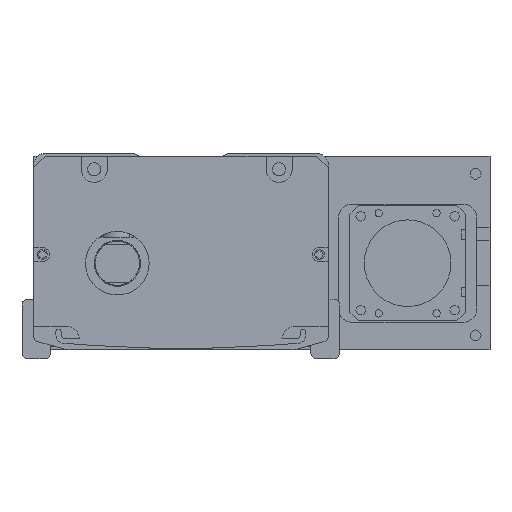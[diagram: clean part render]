
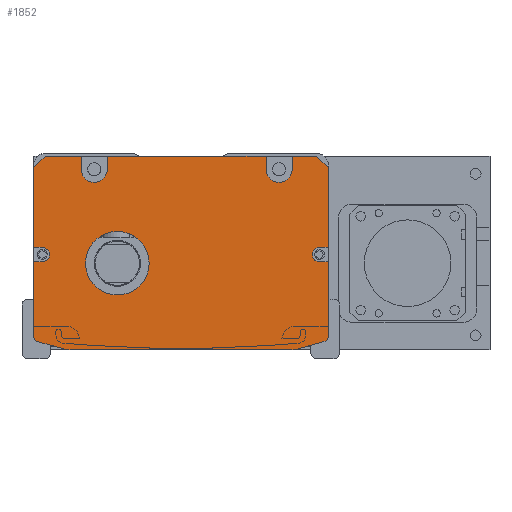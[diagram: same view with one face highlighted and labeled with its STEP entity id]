
A CAD part, front view. The second image highlights one B-rep face of the part: STEP entity #1852.
In plain terms, the highlighted planar face has unit normal (0, -1, 0).
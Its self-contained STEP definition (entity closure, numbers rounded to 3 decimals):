
#1852=ADVANCED_FACE('',(#4440,#4441),#2411,.F.);
#2411=PLANE('',#14145);
#2952=LINE('',#27134,#3751);
#2956=LINE('',#27143,#3755);
#2964=LINE('',#27170,#3763);
#2968=LINE('',#27179,#3767);
#2975=LINE('',#27195,#3774);
#2977=LINE('',#27200,#3776);
#2992=LINE('',#27243,#3791);
#2994=LINE('',#27251,#3793);
#2997=LINE('',#27255,#3796);
#3018=LINE('',#27323,#3817);
#3022=LINE('',#27332,#3821);
#3026=LINE('',#27341,#3825);
#3030=LINE('',#27350,#3829);
#3034=LINE('',#27366,#3833);
#3038=LINE('',#27372,#3837);
#3039=LINE('',#27373,#3838);
#3041=LINE('',#27389,#3840);
#3042=LINE('',#27390,#3841);
#3043=LINE('',#27391,#3842);
#3044=LINE('',#27392,#3843);
#3751=VECTOR('',#16697,1.);
#3755=VECTOR('',#16703,1.);
#3763=VECTOR('',#16725,1.);
#3767=VECTOR('',#16731,1.);
#3774=VECTOR('',#16740,1.);
#3776=VECTOR('',#16744,1.);
#3791=VECTOR('',#16783,1.);
#3793=VECTOR('',#16793,1.);
#3796=VECTOR('',#16798,1.);
#3817=VECTOR('',#16873,1.);
#3821=VECTOR('',#16879,1.);
#3825=VECTOR('',#16885,1.);
#3829=VECTOR('',#16891,1.);
#3833=VECTOR('',#16909,1.);
#3837=VECTOR('',#16913,1.);
#3838=VECTOR('',#16914,1.);
#3840=VECTOR('',#16938,1.);
#3841=VECTOR('',#16939,1.);
#3842=VECTOR('',#16940,1.);
#3843=VECTOR('',#16941,1.);
#4440=FACE_BOUND('',#5358,.T.);
#4441=FACE_BOUND('',#5359,.T.);
#5358=EDGE_LOOP('',(#7865,#7866,#7867,#7868,#7869,#7870,#7871,#7872,#7873,
#7874,#7875,#7876,#7877,#7878,#7879,#7880,#7881,#7882,#7883,#7884,#7885,
#7886,#7887,#7888,#7889,#7890,#7891,#7892));
#5359=EDGE_LOOP('',(#7893));
#7865=ORIENTED_EDGE('',*,*,#11922,.T.);
#7866=ORIENTED_EDGE('',*,*,#11799,.T.);
#7867=ORIENTED_EDGE('',*,*,#11909,.T.);
#7868=ORIENTED_EDGE('',*,*,#11826,.F.);
#7869=ORIENTED_EDGE('',*,*,#11863,.T.);
#7870=ORIENTED_EDGE('',*,*,#11828,.F.);
#7871=ORIENTED_EDGE('',*,*,#11914,.T.);
#7872=ORIENTED_EDGE('',*,*,#11815,.F.);
#7873=ORIENTED_EDGE('',*,*,#11860,.T.);
#7874=ORIENTED_EDGE('',*,*,#11819,.F.);
#7875=ORIENTED_EDGE('',*,*,#11913,.T.);
#7876=ORIENTED_EDGE('',*,*,#11803,.T.);
#7877=ORIENTED_EDGE('',*,*,#11923,.T.);
#7878=ORIENTED_EDGE('',*,*,#11893,.T.);
#7879=ORIENTED_EDGE('',*,*,#11921,.T.);
#7880=ORIENTED_EDGE('',*,*,#11889,.T.);
#7881=ORIENTED_EDGE('',*,*,#11924,.T.);
#7882=ORIENTED_EDGE('',*,*,#11846,.T.);
#7883=ORIENTED_EDGE('',*,*,#11849,.T.);
#7884=ORIENTED_EDGE('',*,*,#11852,.T.);
#7885=ORIENTED_EDGE('',*,*,#11853,.T.);
#7886=ORIENTED_EDGE('',*,*,#11809,.T.);
#7887=ORIENTED_EDGE('',*,*,#11856,.T.);
#7888=ORIENTED_EDGE('',*,*,#11811,.T.);
#7889=ORIENTED_EDGE('',*,*,#11925,.T.);
#7890=ORIENTED_EDGE('',*,*,#11901,.T.);
#7891=ORIENTED_EDGE('',*,*,#11920,.T.);
#7892=ORIENTED_EDGE('',*,*,#11897,.T.);
#7893=ORIENTED_EDGE('',*,*,#11865,.T.);
#10235=VERTEX_POINT('',#27135);
#10236=VERTEX_POINT('',#27136);
#10239=VERTEX_POINT('',#27144);
#10240=VERTEX_POINT('',#27145);
#10245=VERTEX_POINT('',#27156);
#10246=VERTEX_POINT('',#27158);
#10247=VERTEX_POINT('',#27162);
#10248=VERTEX_POINT('',#27163);
#10251=VERTEX_POINT('',#27171);
#10252=VERTEX_POINT('',#27172);
#10255=VERTEX_POINT('',#27180);
#10256=VERTEX_POINT('',#27181);
#10260=VERTEX_POINT('',#27190);
#10262=VERTEX_POINT('',#27194);
#10263=VERTEX_POINT('',#27198);
#10265=VERTEX_POINT('',#27201);
#10275=VERTEX_POINT('',#27231);
#10278=VERTEX_POINT('',#27236);
#10280=VERTEX_POINT('',#27242);
#10282=VERTEX_POINT('',#27248);
#10285=VERTEX_POINT('',#27274);
#10301=VERTEX_POINT('',#27321);
#10303=VERTEX_POINT('',#27324);
#10306=VERTEX_POINT('',#27331);
#10307=VERTEX_POINT('',#27333);
#10309=VERTEX_POINT('',#27339);
#10311=VERTEX_POINT('',#27342);
#10314=VERTEX_POINT('',#27349);
#10315=VERTEX_POINT('',#27351);
#11799=EDGE_CURVE('',#10235,#10236,#2952,.T.);
#11803=EDGE_CURVE('',#10239,#10240,#2956,.T.);
#11809=EDGE_CURVE('',#10246,#10245,#12996,.T.);
#11811=EDGE_CURVE('',#10247,#10248,#12997,.T.);
#11815=EDGE_CURVE('',#10251,#10252,#2964,.T.);
#11819=EDGE_CURVE('',#10255,#10256,#2968,.T.);
#11826=EDGE_CURVE('',#10262,#10260,#2975,.T.);
#11828=EDGE_CURVE('',#10263,#10265,#2977,.T.);
#11846=EDGE_CURVE('',#10275,#10278,#13004,.T.);
#11849=EDGE_CURVE('',#10278,#10280,#2992,.T.);
#11852=EDGE_CURVE('',#10280,#10282,#13006,.T.);
#11853=EDGE_CURVE('',#10282,#10246,#2994,.T.);
#11856=EDGE_CURVE('',#10245,#10247,#2997,.T.);
#11860=EDGE_CURVE('',#10251,#10256,#13009,.T.);
#11863=EDGE_CURVE('',#10262,#10265,#13012,.T.);
#11865=EDGE_CURVE('',#10285,#10285,#13013,.T.);
#11889=EDGE_CURVE('',#10303,#10301,#3018,.T.);
#11893=EDGE_CURVE('',#10307,#10306,#3022,.T.);
#11897=EDGE_CURVE('',#10311,#10309,#3026,.T.);
#11901=EDGE_CURVE('',#10315,#10314,#3030,.T.);
#11909=EDGE_CURVE('',#10236,#10260,#3034,.T.);
#11913=EDGE_CURVE('',#10255,#10239,#3038,.T.);
#11914=EDGE_CURVE('',#10263,#10252,#3039,.T.);
#11920=EDGE_CURVE('',#10314,#10311,#13027,.T.);
#11921=EDGE_CURVE('',#10306,#10303,#13028,.T.);
#11922=EDGE_CURVE('',#10309,#10235,#3041,.T.);
#11923=EDGE_CURVE('',#10240,#10307,#3042,.T.);
#11924=EDGE_CURVE('',#10301,#10275,#3043,.T.);
#11925=EDGE_CURVE('',#10248,#10315,#3044,.T.);
#12996=CIRCLE('',#14072,10.);
#12997=CIRCLE('',#14074,2.);
#13004=CIRCLE('',#14090,2.);
#13006=CIRCLE('',#14094,10.);
#13009=CIRCLE('',#14102,4.5);
#13012=CIRCLE('',#14107,4.5);
#13013=CIRCLE('',#14110,11.);
#13027=CIRCLE('',#14141,2.5);
#13028=CIRCLE('',#14143,2.5);
#14072=AXIS2_PLACEMENT_3D('',#27157,#16712,#16713);
#14074=AXIS2_PLACEMENT_3D('',#27161,#16717,#16718);
#14090=AXIS2_PLACEMENT_3D('',#27237,#16777,#16778);
#14094=AXIS2_PLACEMENT_3D('',#27249,#16789,#16790);
#14102=AXIS2_PLACEMENT_3D('',#27263,#16810,#16811);
#14107=AXIS2_PLACEMENT_3D('',#27269,#16820,#16821);
#14110=AXIS2_PLACEMENT_3D('',#27273,#16827,#16828);
#14141=AXIS2_PLACEMENT_3D('',#27385,#16930,#16931);
#14143=AXIS2_PLACEMENT_3D('',#27387,#16934,#16935);
#14145=AXIS2_PLACEMENT_3D('',#27393,#16942,#16943);
#16697=DIRECTION('',(-0.707,0.,0.707));
#16703=DIRECTION('',(-0.707,0.,-0.707));
#16712=DIRECTION('',(0.,-1.,0.));
#16713=DIRECTION('',(0.,0.,-1.));
#16717=DIRECTION('',(0.,-1.,0.));
#16718=DIRECTION('',(0.,0.,-1.));
#16725=DIRECTION('',(0.,0.,1.));
#16731=DIRECTION('',(0.,0.,-1.));
#16740=DIRECTION('',(0.,0.,1.));
#16744=DIRECTION('',(0.,0.,-1.));
#16777=DIRECTION('',(0.,-1.,0.));
#16778=DIRECTION('',(0.,0.,1.));
#16783=DIRECTION('',(0.963,0.,-0.269));
#16789=DIRECTION('',(0.,-1.,0.));
#16790=DIRECTION('',(0.,0.,1.));
#16793=DIRECTION('',(1.,0.,0.));
#16798=DIRECTION('',(0.963,0.,0.269));
#16810=DIRECTION('',(0.,1.,0.));
#16811=DIRECTION('',(0.,0.,1.));
#16820=DIRECTION('',(0.,1.,0.));
#16821=DIRECTION('',(0.,0.,1.));
#16827=DIRECTION('',(0.,1.,0.));
#16828=DIRECTION('',(0.,0.,1.));
#16873=DIRECTION('',(-1.,0.,0.));
#16879=DIRECTION('',(1.,0.,0.));
#16885=DIRECTION('',(1.,0.,0.));
#16891=DIRECTION('',(-1.,0.,0.));
#16909=DIRECTION('',(-1.,0.,0.));
#16913=DIRECTION('',(-1.,0.,0.));
#16914=DIRECTION('',(-1.,0.,0.));
#16930=DIRECTION('',(0.,1.,0.));
#16931=DIRECTION('',(0.,0.,1.));
#16934=DIRECTION('',(0.,1.,0.));
#16935=DIRECTION('',(0.,0.,1.));
#16938=DIRECTION('',(0.,0.,1.));
#16939=DIRECTION('',(0.,0.,-1.));
#16940=DIRECTION('',(0.,0.,-1.));
#16941=DIRECTION('',(0.,0.,1.));
#16942=DIRECTION('',(0.,1.,0.));
#16943=DIRECTION('',(-1.,0.,0.));
#27134=CARTESIAN_POINT('',(43.808,-667.5,-1.));
#27135=CARTESIAN_POINT('',(47.808,-667.5,-5.));
#27136=CARTESIAN_POINT('',(43.808,-667.5,-1.));
#27143=CARTESIAN_POINT('',(-54.192,-667.5,-5.));
#27144=CARTESIAN_POINT('',(-50.192,-667.5,-1.));
#27145=CARTESIAN_POINT('',(-54.192,-667.5,-5.));
#27156=CARTESIAN_POINT('',(37.424,-667.5,-67.631));
#27157=CARTESIAN_POINT('',(34.733,-667.5,-58.));
#27158=CARTESIAN_POINT('',(34.733,-667.5,-68.));
#27161=CARTESIAN_POINT('',(45.808,-667.5,-63.212));
#27162=CARTESIAN_POINT('',(46.346,-667.5,-65.138));
#27163=CARTESIAN_POINT('',(47.808,-667.5,-63.212));
#27170=CARTESIAN_POINT('',(-28.692,-667.5,-3.5));
#27171=CARTESIAN_POINT('',(-28.692,-667.5,-5.5));
#27172=CARTESIAN_POINT('',(-28.692,-667.5,-1.));
#27179=CARTESIAN_POINT('',(-37.692,-667.5,-1.));
#27180=CARTESIAN_POINT('',(-37.692,-667.5,-1.));
#27181=CARTESIAN_POINT('',(-37.692,-667.5,-5.5));
#27190=CARTESIAN_POINT('',(35.308,-667.5,-1.));
#27194=CARTESIAN_POINT('',(35.308,-667.5,-5.5));
#27195=CARTESIAN_POINT('',(35.308,-667.5,-1.));
#27198=CARTESIAN_POINT('',(26.308,-667.5,-1.));
#27200=CARTESIAN_POINT('',(26.308,-667.5,-1.));
#27201=CARTESIAN_POINT('',(26.308,-667.5,-5.5));
#27231=CARTESIAN_POINT('',(-54.192,-667.5,-63.212));
#27236=CARTESIAN_POINT('',(-52.731,-667.5,-65.138));
#27237=CARTESIAN_POINT('',(-52.192,-667.5,-63.212));
#27242=CARTESIAN_POINT('',(-43.809,-667.5,-67.631));
#27243=CARTESIAN_POINT('',(-55.807,-667.5,-64.279));
#27248=CARTESIAN_POINT('',(-41.118,-667.5,-68.));
#27249=CARTESIAN_POINT('',(-41.118,-667.5,-58.));
#27251=CARTESIAN_POINT('',(-54.692,-667.5,-68.));
#27255=CARTESIAN_POINT('',(49.422,-667.5,-64.279));
#27263=CARTESIAN_POINT('',(-33.192,-667.5,-5.5));
#27269=CARTESIAN_POINT('',(30.808,-667.5,-5.5));
#27273=CARTESIAN_POINT('',(-25.192,-667.5,-38.));
#27274=CARTESIAN_POINT('',(-25.192,-667.5,-27.));
#27321=CARTESIAN_POINT('',(-54.192,-667.5,-37.5));
#27323=CARTESIAN_POINT('',(-3.192,-667.5,-37.5));
#27324=CARTESIAN_POINT('',(-51.192,-667.5,-37.5));
#27331=CARTESIAN_POINT('',(-51.192,-667.5,-32.5));
#27332=CARTESIAN_POINT('',(-3.192,-667.5,-32.5));
#27333=CARTESIAN_POINT('',(-54.192,-667.5,-32.5));
#27339=CARTESIAN_POINT('',(47.808,-667.5,-32.5));
#27341=CARTESIAN_POINT('',(-3.192,-667.5,-32.5));
#27342=CARTESIAN_POINT('',(44.808,-667.5,-32.5));
#27349=CARTESIAN_POINT('',(44.808,-667.5,-37.5));
#27350=CARTESIAN_POINT('',(-3.192,-667.5,-37.5));
#27351=CARTESIAN_POINT('',(47.808,-667.5,-37.5));
#27366=CARTESIAN_POINT('',(-3.192,-667.5,-1.));
#27372=CARTESIAN_POINT('',(-54.192,-667.5,-1.));
#27373=CARTESIAN_POINT('',(-54.192,-667.5,-1.));
#27385=CARTESIAN_POINT('',(44.808,-667.5,-35.));
#27387=CARTESIAN_POINT('',(-51.192,-667.5,-35.));
#27389=CARTESIAN_POINT('',(47.808,-667.5,-1.));
#27390=CARTESIAN_POINT('',(-54.192,-667.5,-62.));
#27391=CARTESIAN_POINT('',(-54.192,-667.5,-62.));
#27392=CARTESIAN_POINT('',(47.808,-667.5,-1.));
#27393=CARTESIAN_POINT('',(-3.192,-667.5,-1.));
